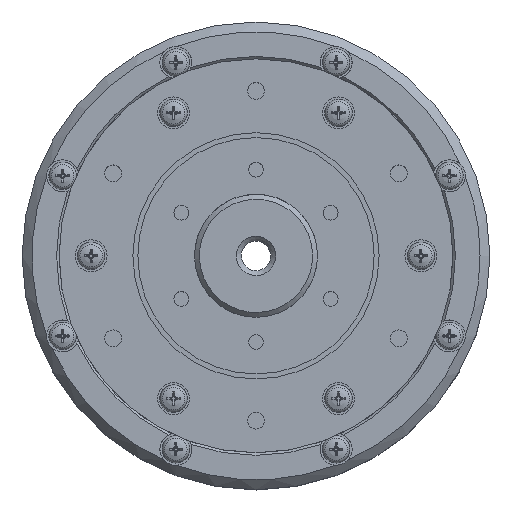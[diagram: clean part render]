
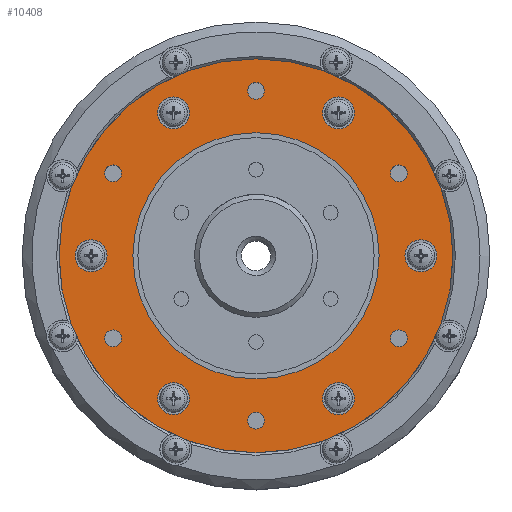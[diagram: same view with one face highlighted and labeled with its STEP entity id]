
A CAD part, top view. The second image highlights one B-rep face of the part: STEP entity #10408.
In plain terms, the highlighted planar face has unit normal (0, 0, 1) as drawn and (0, 0, -1) by its records, which use the part's own axes.
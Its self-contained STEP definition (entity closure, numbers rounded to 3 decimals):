
#754=FACE_BOUND('',#2690,.T.);
#755=FACE_BOUND('',#2691,.T.);
#756=FACE_BOUND('',#2692,.T.);
#757=FACE_BOUND('',#2693,.T.);
#758=FACE_BOUND('',#2694,.T.);
#759=FACE_BOUND('',#2695,.T.);
#760=FACE_BOUND('',#2696,.T.);
#761=FACE_BOUND('',#2697,.T.);
#762=FACE_BOUND('',#2698,.T.);
#763=FACE_BOUND('',#2699,.T.);
#764=FACE_BOUND('',#2700,.T.);
#765=FACE_BOUND('',#2701,.T.);
#766=FACE_BOUND('',#2702,.T.);
#922=PLANE('',#11906);
#1816=FACE_OUTER_BOUND('',#2689,.T.);
#2689=EDGE_LOOP('',(#9275));
#2690=EDGE_LOOP('',(#9276));
#2691=EDGE_LOOP('',(#9277));
#2692=EDGE_LOOP('',(#9278));
#2693=EDGE_LOOP('',(#9279));
#2694=EDGE_LOOP('',(#9280));
#2695=EDGE_LOOP('',(#9281));
#2696=EDGE_LOOP('',(#9282));
#2697=EDGE_LOOP('',(#9283));
#2698=EDGE_LOOP('',(#9284));
#2699=EDGE_LOOP('',(#9285));
#2700=EDGE_LOOP('',(#9286));
#2701=EDGE_LOOP('',(#9287));
#2702=EDGE_LOOP('',(#9288));
#4511=CIRCLE('',#11843,40.);
#4525=CIRCLE('',#11865,3.25);
#4527=CIRCLE('',#11869,3.25);
#4529=CIRCLE('',#11873,3.25);
#4531=CIRCLE('',#11877,3.25);
#4533=CIRCLE('',#11881,3.25);
#4535=CIRCLE('',#11885,3.25);
#4536=CIRCLE('',#11887,1.7);
#4538=CIRCLE('',#11890,1.7);
#4540=CIRCLE('',#11893,1.7);
#4542=CIRCLE('',#11896,1.7);
#4544=CIRCLE('',#11899,1.7);
#4546=CIRCLE('',#11902,1.7);
#4549=CIRCLE('',#11907,25.);
#5346=VERTEX_POINT('',#18400);
#5360=VERTEX_POINT('',#18443);
#5362=VERTEX_POINT('',#18450);
#5364=VERTEX_POINT('',#18457);
#5366=VERTEX_POINT('',#18464);
#5368=VERTEX_POINT('',#18471);
#5370=VERTEX_POINT('',#18478);
#5371=VERTEX_POINT('',#18482);
#5373=VERTEX_POINT('',#18488);
#5375=VERTEX_POINT('',#18494);
#5377=VERTEX_POINT('',#18500);
#5379=VERTEX_POINT('',#18506);
#5381=VERTEX_POINT('',#18512);
#5384=VERTEX_POINT('',#18521);
#6650=EDGE_CURVE('',#5346,#5346,#4511,.T.);
#6670=EDGE_CURVE('',#5360,#5360,#4525,.T.);
#6673=EDGE_CURVE('',#5362,#5362,#4527,.T.);
#6676=EDGE_CURVE('',#5364,#5364,#4529,.T.);
#6679=EDGE_CURVE('',#5366,#5366,#4531,.T.);
#6682=EDGE_CURVE('',#5368,#5368,#4533,.T.);
#6685=EDGE_CURVE('',#5370,#5370,#4535,.T.);
#6687=EDGE_CURVE('',#5371,#5371,#4536,.T.);
#6690=EDGE_CURVE('',#5373,#5373,#4538,.T.);
#6693=EDGE_CURVE('',#5375,#5375,#4540,.T.);
#6696=EDGE_CURVE('',#5377,#5377,#4542,.T.);
#6699=EDGE_CURVE('',#5379,#5379,#4544,.T.);
#6702=EDGE_CURVE('',#5381,#5381,#4546,.T.);
#6706=EDGE_CURVE('',#5384,#5384,#4549,.T.);
#9275=ORIENTED_EDGE('',*,*,#6650,.F.);
#9276=ORIENTED_EDGE('',*,*,#6670,.T.);
#9277=ORIENTED_EDGE('',*,*,#6673,.T.);
#9278=ORIENTED_EDGE('',*,*,#6676,.T.);
#9279=ORIENTED_EDGE('',*,*,#6679,.T.);
#9280=ORIENTED_EDGE('',*,*,#6682,.T.);
#9281=ORIENTED_EDGE('',*,*,#6685,.T.);
#9282=ORIENTED_EDGE('',*,*,#6687,.T.);
#9283=ORIENTED_EDGE('',*,*,#6690,.T.);
#9284=ORIENTED_EDGE('',*,*,#6693,.T.);
#9285=ORIENTED_EDGE('',*,*,#6696,.T.);
#9286=ORIENTED_EDGE('',*,*,#6699,.T.);
#9287=ORIENTED_EDGE('',*,*,#6702,.T.);
#9288=ORIENTED_EDGE('',*,*,#6706,.T.);
#10408=ADVANCED_FACE('',(#1816,#754,#755,#756,#757,#758,#759,#760,#761,
#762,#763,#764,#765,#766),#922,.F.);
#11843=AXIS2_PLACEMENT_3D('',#18402,#15043,#15044);
#11865=AXIS2_PLACEMENT_3D('',#18444,#15093,#15094);
#11869=AXIS2_PLACEMENT_3D('',#18451,#15102,#15103);
#11873=AXIS2_PLACEMENT_3D('',#18458,#15111,#15112);
#11877=AXIS2_PLACEMENT_3D('',#18465,#15120,#15121);
#11881=AXIS2_PLACEMENT_3D('',#18472,#15129,#15130);
#11885=AXIS2_PLACEMENT_3D('',#18479,#15138,#15139);
#11887=AXIS2_PLACEMENT_3D('',#18483,#15143,#15144);
#11890=AXIS2_PLACEMENT_3D('',#18489,#15150,#15151);
#11893=AXIS2_PLACEMENT_3D('',#18495,#15157,#15158);
#11896=AXIS2_PLACEMENT_3D('',#18501,#15164,#15165);
#11899=AXIS2_PLACEMENT_3D('',#18507,#15171,#15172);
#11902=AXIS2_PLACEMENT_3D('',#18513,#15178,#15179);
#11906=AXIS2_PLACEMENT_3D('',#18520,#15187,#15188);
#11907=AXIS2_PLACEMENT_3D('',#18522,#15189,#15190);
#15043=DIRECTION('center_axis',(0.,0.,1.));
#15044=DIRECTION('ref_axis',(1.,0.,0.));
#15093=DIRECTION('center_axis',(0.,0.,1.));
#15094=DIRECTION('ref_axis',(1.,0.,0.));
#15102=DIRECTION('center_axis',(0.,0.,1.));
#15103=DIRECTION('ref_axis',(0.5,-0.866,0.));
#15111=DIRECTION('center_axis',(0.,0.,1.));
#15112=DIRECTION('ref_axis',(-0.5,-0.866,0.));
#15120=DIRECTION('center_axis',(0.,0.,1.));
#15121=DIRECTION('ref_axis',(-1.,0.,0.));
#15129=DIRECTION('center_axis',(0.,0.,1.));
#15130=DIRECTION('ref_axis',(-0.5,0.866,0.));
#15138=DIRECTION('center_axis',(0.,0.,1.));
#15139=DIRECTION('ref_axis',(0.5,0.866,0.));
#15143=DIRECTION('center_axis',(0.,0.,1.));
#15144=DIRECTION('ref_axis',(1.,0.,0.));
#15150=DIRECTION('center_axis',(0.,0.,1.));
#15151=DIRECTION('ref_axis',(0.5,0.866,0.));
#15157=DIRECTION('center_axis',(0.,0.,1.));
#15158=DIRECTION('ref_axis',(-0.5,0.866,0.));
#15164=DIRECTION('center_axis',(0.,0.,1.));
#15165=DIRECTION('ref_axis',(-1.,0.,0.));
#15171=DIRECTION('center_axis',(0.,0.,1.));
#15172=DIRECTION('ref_axis',(-0.5,-0.866,0.));
#15178=DIRECTION('center_axis',(0.,0.,1.));
#15179=DIRECTION('ref_axis',(0.5,-0.866,0.));
#15187=DIRECTION('center_axis',(0.,0.,1.));
#15188=DIRECTION('ref_axis',(1.,0.,0.));
#15189=DIRECTION('center_axis',(0.,0.,1.));
#15190=DIRECTION('ref_axis',(1.,0.,0.));
#18400=CARTESIAN_POINT('',(-40.,0.,0.));
#18402=CARTESIAN_POINT('Origin',(0.,0.,0.));
#18443=CARTESIAN_POINT('',(30.25,0.,0.));
#18444=CARTESIAN_POINT('Origin',(33.5,0.,0.));
#18450=CARTESIAN_POINT('',(15.125,-26.197,0.));
#18451=CARTESIAN_POINT('Origin',(16.75,-29.012,0.));
#18457=CARTESIAN_POINT('',(-15.125,-26.197,0.));
#18458=CARTESIAN_POINT('Origin',(-16.75,-29.012,0.));
#18464=CARTESIAN_POINT('',(-30.25,0.,0.));
#18465=CARTESIAN_POINT('Origin',(-33.5,0.,0.));
#18471=CARTESIAN_POINT('',(-15.125,26.197,0.));
#18472=CARTESIAN_POINT('Origin',(-16.75,29.012,0.));
#18478=CARTESIAN_POINT('',(15.125,26.197,0.));
#18479=CARTESIAN_POINT('Origin',(16.75,29.012,0.));
#18482=CARTESIAN_POINT('',(27.312,16.75,0.));
#18483=CARTESIAN_POINT('Origin',(29.012,16.75,0.));
#18488=CARTESIAN_POINT('',(-0.85,32.028,0.));
#18489=CARTESIAN_POINT('Origin',(0.,33.5,0.));
#18494=CARTESIAN_POINT('',(-28.162,15.278,0.));
#18495=CARTESIAN_POINT('Origin',(-29.012,16.75,0.));
#18500=CARTESIAN_POINT('',(-27.312,-16.75,0.));
#18501=CARTESIAN_POINT('Origin',(-29.012,-16.75,0.));
#18506=CARTESIAN_POINT('',(0.85,-32.028,0.));
#18507=CARTESIAN_POINT('Origin',(0.,-33.5,0.));
#18512=CARTESIAN_POINT('',(28.162,-15.278,0.));
#18513=CARTESIAN_POINT('Origin',(29.012,-16.75,0.));
#18520=CARTESIAN_POINT('Origin',(0.,0.,0.));
#18521=CARTESIAN_POINT('',(-25.,0.,0.));
#18522=CARTESIAN_POINT('Origin',(0.,0.,0.));
